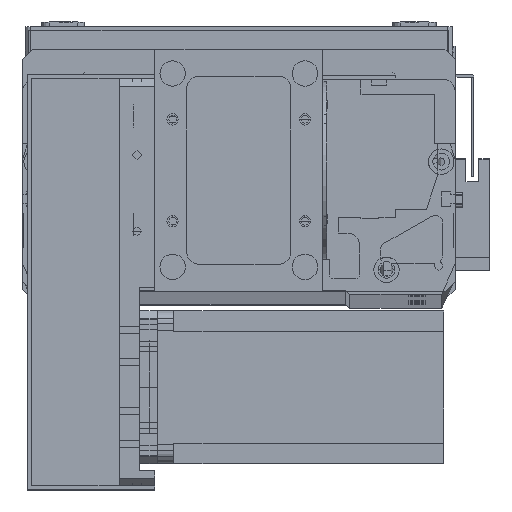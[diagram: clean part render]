
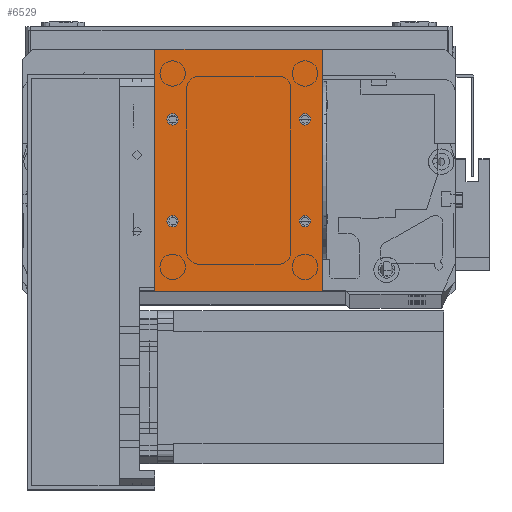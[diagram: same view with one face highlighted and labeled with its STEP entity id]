
A CAD part, top view. The second image highlights one B-rep face of the part: STEP entity #6529.
In plain terms, the highlighted planar face has unit normal (0, 0, 1).
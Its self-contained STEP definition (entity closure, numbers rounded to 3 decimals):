
#166 = AXIS2_PLACEMENT_3D ( 'NONE', #31235, #15123, #33814 ) ;
#523 = VERTEX_POINT ( 'NONE', #12745 ) ;
#575 = CIRCLE ( 'NONE', #11421, 2.25 ) ;
#713 = ORIENTED_EDGE ( 'NONE', *, *, #10269, .F. ) ;
#1127 = ORIENTED_EDGE ( 'NONE', *, *, #6622, .T. ) ;
#1142 = CARTESIAN_POINT ( 'NONE',  ( 9.25, 27.5, 2. ) ) ;
#1226 = CARTESIAN_POINT ( 'NONE',  ( 56.75, 27.5, 2. ) ) ;
#1566 = CARTESIAN_POINT ( 'NONE',  ( 0., 0., 2. ) ) ;
#1746 = DIRECTION ( 'NONE',  ( 1., 0., 0. ) ) ;
#1792 = CARTESIAN_POINT ( 'NONE',  ( 7., 27.5, 2. ) ) ;
#2041 = CARTESIAN_POINT ( 'NONE',  ( 0., 95., 2. ) ) ;
#2243 = VERTEX_POINT ( 'NONE', #2041 ) ;
#2332 = EDGE_LOOP ( 'NONE', ( #5726, #16728 ) ) ;
#3227 = VERTEX_POINT ( 'NONE', #3994 ) ;
#3994 = CARTESIAN_POINT ( 'NONE',  ( 66., 95., 2. ) ) ;
#4184 = AXIS2_PLACEMENT_3D ( 'NONE', #1792, #21040, #4601 ) ;
#4197 = VERTEX_POINT ( 'NONE', #8387 ) ;
#4601 = DIRECTION ( 'NONE',  ( 1., 0., 0. ) ) ;
#5726 = ORIENTED_EDGE ( 'NONE', *, *, #17873, .F. ) ;
#5892 = ORIENTED_EDGE ( 'NONE', *, *, #23414, .T. ) ;
#6000 = CARTESIAN_POINT ( 'NONE',  ( 7., 27.5, 2. ) ) ;
#6342 = EDGE_CURVE ( 'NONE', #12373, #27222, #7497, .T. ) ;
#6377 = VERTEX_POINT ( 'NONE', #20349 ) ;
#6529 = ADVANCED_FACE ( 'NONE', ( #8765, #22464, #15997, #23323, #15164 ), #12361, .F. ) ;
#6622 = EDGE_CURVE ( 'NONE', #3227, #2243, #33971, .T. ) ;
#6907 = AXIS2_PLACEMENT_3D ( 'NONE', #33606, #33380, #31367 ) ;
#7234 = CARTESIAN_POINT ( 'NONE',  ( 7., 67.5, 2. ) ) ;
#7497 = CIRCLE ( 'NONE', #25112, 2.25 ) ;
#7499 = EDGE_LOOP ( 'NONE', ( #17123, #20601 ) ) ;
#8106 = CIRCLE ( 'NONE', #12310, 2.25 ) ;
#8387 = CARTESIAN_POINT ( 'NONE',  ( 4.75, 67.5, 2. ) ) ;
#8594 = LINE ( 'NONE', #29893, #29369 ) ;
#8765 = FACE_BOUND ( 'NONE', #11536, .T. ) ;
#8797 = DIRECTION ( 'NONE',  ( 1., 0., 0. ) ) ;
#8949 = VERTEX_POINT ( 'NONE', #1226 ) ;
#9487 = DIRECTION ( 'NONE',  ( -1., 0., 0. ) ) ;
#9857 = CIRCLE ( 'NONE', #166, 2.25 ) ;
#9949 = DIRECTION ( 'NONE',  ( 1., 0., 0. ) ) ;
#10045 = CARTESIAN_POINT ( 'NONE',  ( 0., 95., 2. ) ) ;
#10269 = EDGE_CURVE ( 'NONE', #31347, #4197, #22056, .T. ) ;
#10618 = LINE ( 'NONE', #17481, #32130 ) ;
#11421 = AXIS2_PLACEMENT_3D ( 'NONE', #34148, #18279, #1746 ) ;
#11475 = EDGE_LOOP ( 'NONE', ( #28793, #16715 ) ) ;
#11536 = EDGE_LOOP ( 'NONE', ( #713, #34892 ) ) ;
#11728 = DIRECTION ( 'NONE',  ( -1., 0., 0. ) ) ;
#11844 = DIRECTION ( 'NONE',  ( 0., 0., -1. ) ) ;
#12310 = AXIS2_PLACEMENT_3D ( 'NONE', #7234, #26303, #9949 ) ;
#12361 = PLANE ( 'NONE',  #33214 ) ;
#12373 = VERTEX_POINT ( 'NONE', #17395 ) ;
#12412 = CARTESIAN_POINT ( 'NONE',  ( 0., 0., 2. ) ) ;
#12745 = CARTESIAN_POINT ( 'NONE',  ( 66., 0., 2. ) ) ;
#12896 = DIRECTION ( 'NONE',  ( 0., 0., 1. ) ) ;
#13538 = EDGE_CURVE ( 'NONE', #2243, #6377, #8594, .T. ) ;
#13943 = EDGE_CURVE ( 'NONE', #27222, #12373, #23127, .T. ) ;
#15123 = DIRECTION ( 'NONE',  ( 0., 0., 1. ) ) ;
#15164 = FACE_OUTER_BOUND ( 'NONE', #26849, .T. ) ;
#15255 = CARTESIAN_POINT ( 'NONE',  ( 61.25, 27.5, 2. ) ) ;
#15492 = DIRECTION ( 'NONE',  ( 1., 0., 0. ) ) ;
#15997 = FACE_BOUND ( 'NONE', #11475, .T. ) ;
#16337 = CARTESIAN_POINT ( 'NONE',  ( 9.25, 67.5, 2. ) ) ;
#16433 = EDGE_CURVE ( 'NONE', #34149, #8949, #9857, .T. ) ;
#16715 = ORIENTED_EDGE ( 'NONE', *, *, #24023, .F. ) ;
#16728 = ORIENTED_EDGE ( 'NONE', *, *, #34514, .F. ) ;
#17123 = ORIENTED_EDGE ( 'NONE', *, *, #13943, .F. ) ;
#17395 = CARTESIAN_POINT ( 'NONE',  ( 56.75, 67.5, 2. ) ) ;
#17481 = CARTESIAN_POINT ( 'NONE',  ( 66., 0., 2. ) ) ;
#17873 = EDGE_CURVE ( 'NONE', #22197, #24320, #26811, .T. ) ;
#18279 = DIRECTION ( 'NONE',  ( 0., 0., 1. ) ) ;
#19425 = CARTESIAN_POINT ( 'NONE',  ( 4.75, 27.5, 2. ) ) ;
#19908 = VECTOR ( 'NONE', #9487, 1000. ) ;
#20349 = CARTESIAN_POINT ( 'NONE',  ( 0., 0., 2. ) ) ;
#20420 = DIRECTION ( 'NONE',  ( 1., 0., 0. ) ) ;
#20577 = DIRECTION ( 'NONE',  ( 0., 0., 1. ) ) ;
#20601 = ORIENTED_EDGE ( 'NONE', *, *, #6342, .F. ) ;
#20623 = CARTESIAN_POINT ( 'NONE',  ( 59., 67.5, 2. ) ) ;
#21040 = DIRECTION ( 'NONE',  ( 0., 0., 1. ) ) ;
#22056 = CIRCLE ( 'NONE', #6907, 2.25 ) ;
#22197 = VERTEX_POINT ( 'NONE', #1142 ) ;
#22464 = FACE_BOUND ( 'NONE', #7499, .T. ) ;
#23127 = CIRCLE ( 'NONE', #25430, 2.25 ) ;
#23323 = FACE_BOUND ( 'NONE', #2332, .T. ) ;
#23414 = EDGE_CURVE ( 'NONE', #6377, #523, #27571, .T. ) ;
#24023 = EDGE_CURVE ( 'NONE', #8949, #34149, #575, .T. ) ;
#24320 = VERTEX_POINT ( 'NONE', #19425 ) ;
#25112 = AXIS2_PLACEMENT_3D ( 'NONE', #20623, #20577, #20420 ) ;
#25143 = DIRECTION ( 'NONE',  ( 0., 0., 1. ) ) ;
#25430 = AXIS2_PLACEMENT_3D ( 'NONE', #29107, #12896, #31722 ) ;
#25868 = ORIENTED_EDGE ( 'NONE', *, *, #33481, .T. ) ;
#26303 = DIRECTION ( 'NONE',  ( 0., 0., 1. ) ) ;
#26767 = VECTOR ( 'NONE', #15492, 1000. ) ;
#26811 = CIRCLE ( 'NONE', #4184, 2.25 ) ;
#26849 = EDGE_LOOP ( 'NONE', ( #27860, #5892, #25868, #1127 ) ) ;
#27222 = VERTEX_POINT ( 'NONE', #28302 ) ;
#27275 = DIRECTION ( 'NONE',  ( 0., -1., 0. ) ) ;
#27571 = LINE ( 'NONE', #1566, #26767 ) ;
#27860 = ORIENTED_EDGE ( 'NONE', *, *, #13538, .T. ) ;
#28302 = CARTESIAN_POINT ( 'NONE',  ( 61.25, 67.5, 2. ) ) ;
#28793 = ORIENTED_EDGE ( 'NONE', *, *, #16433, .F. ) ;
#28905 = AXIS2_PLACEMENT_3D ( 'NONE', #6000, #25143, #8797 ) ;
#29107 = CARTESIAN_POINT ( 'NONE',  ( 59., 67.5, 2. ) ) ;
#29369 = VECTOR ( 'NONE', #27275, 1000. ) ;
#29893 = CARTESIAN_POINT ( 'NONE',  ( 0., 0., 2. ) ) ;
#30051 = CIRCLE ( 'NONE', #28905, 2.25 ) ;
#31235 = CARTESIAN_POINT ( 'NONE',  ( 59., 27.5, 2. ) ) ;
#31347 = VERTEX_POINT ( 'NONE', #16337 ) ;
#31367 = DIRECTION ( 'NONE',  ( 1., 0., 0. ) ) ;
#31722 = DIRECTION ( 'NONE',  ( 1., 0., 0. ) ) ;
#32130 = VECTOR ( 'NONE', #33416, 1000. ) ;
#33017 = EDGE_CURVE ( 'NONE', #4197, #31347, #8106, .T. ) ;
#33214 = AXIS2_PLACEMENT_3D ( 'NONE', #12412, #11844, #11728 ) ;
#33380 = DIRECTION ( 'NONE',  ( 0., 0., 1. ) ) ;
#33416 = DIRECTION ( 'NONE',  ( 0., 1., 0. ) ) ;
#33481 = EDGE_CURVE ( 'NONE', #523, #3227, #10618, .T. ) ;
#33606 = CARTESIAN_POINT ( 'NONE',  ( 7., 67.5, 2. ) ) ;
#33814 = DIRECTION ( 'NONE',  ( 1., 0., 0. ) ) ;
#33971 = LINE ( 'NONE', #10045, #19908 ) ;
#34148 = CARTESIAN_POINT ( 'NONE',  ( 59., 27.5, 2. ) ) ;
#34149 = VERTEX_POINT ( 'NONE', #15255 ) ;
#34514 = EDGE_CURVE ( 'NONE', #24320, #22197, #30051, .T. ) ;
#34892 = ORIENTED_EDGE ( 'NONE', *, *, #33017, .F. ) ;
